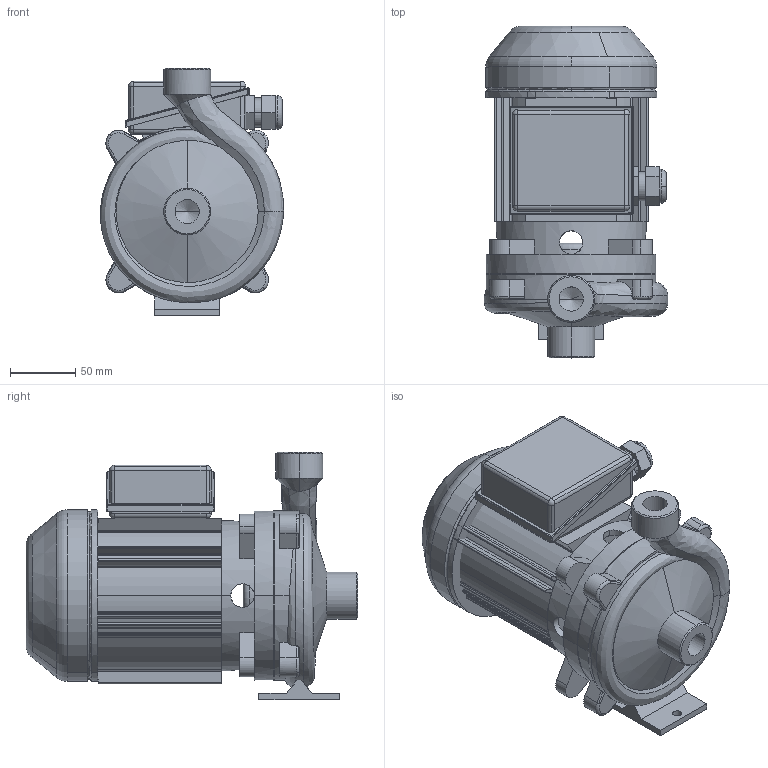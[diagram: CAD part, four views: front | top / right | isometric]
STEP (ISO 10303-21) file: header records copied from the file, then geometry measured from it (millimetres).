
FILE_DESCRIPTION(('STEP AP214'),'1');
FILE_NAME('export.stp','2018-05-28T13:59:31',(' '),(' '),'Spatial InterOp 3D',' ',' ');
FILE_SCHEMA(('AUTOMOTIVE_DESIGN { 1 0 10303 214 1 1 1 1 }'));
Length unit declared in the file: millimetre
Products named in the file (8): V_MOP741; RU_OP_741; TSUOJA_OP_7; KYTKOTELO_OP7_OKN8; W_AP152250; V_EKN12OP7; V_TLL32AAP15AKP25; V_PPAP15
Assembly tree (7 placements, depth 3):
  W_AP152250
    V_MOP741
      RU_OP_741
      TSUOJA_OP_7
      KYTKOTELO_OP7_OKN8
    V_EKN12OP7
    V_TLL32AAP15AKP25
    V_PPAP15
Bounding box: 140.61 x 254.5 x 190 mm (x, y, z)
Volume: 1848116.4 mm3; surface area: 322570 mm2
Topology: 6 solids, 7 shells, 479 faces, 1283 edges, 821 vertices
Faces by surface type: cylinder 254, plane 135, bspline 38, torus 22, cone 18, sphere 12
Entity records: 26994 total; most frequent: CARTESIAN_POINT 6792, DIRECTION 2587, ORIENTED_EDGE 2538, STYLED_ITEM 1313, PRESENTATION_STYLE_ASSIGNMENT 1313, COLOUR_RGB 1313, EDGE_CURVE 1269, AXIS2_PLACEMENT_3D 1038
